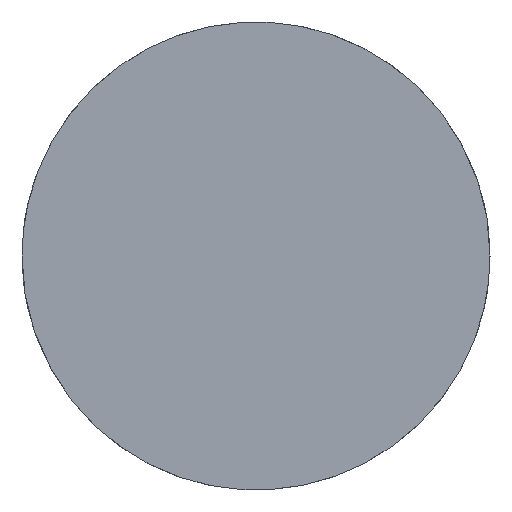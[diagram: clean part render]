
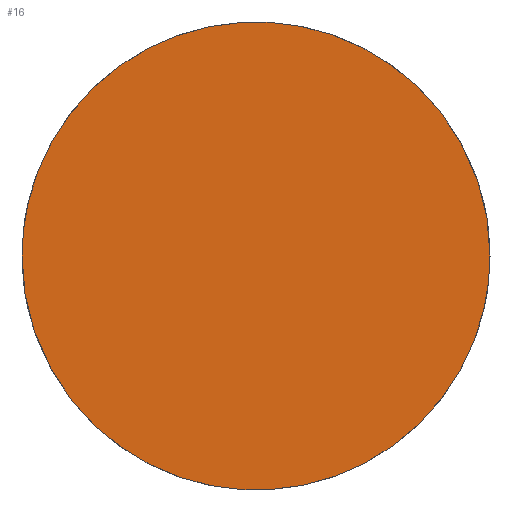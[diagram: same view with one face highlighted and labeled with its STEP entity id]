
A CAD part, left-side view. The second image highlights one B-rep face of the part: STEP entity #16.
In plain terms, the highlighted planar face has unit normal (-1, 0, 0).
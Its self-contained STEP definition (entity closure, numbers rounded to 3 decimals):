
#16=ADVANCED_FACE('',(#22),#79,.T.);
#22=FACE_OUTER_BOUND('',#28,.T.);
#28=EDGE_LOOP('',(#37,#38));
#37=ORIENTED_EDGE('',*,*,#55,.T.);
#38=ORIENTED_EDGE('',*,*,#60,.T.);
#55=EDGE_CURVE('',#74,#77,#65,.T.);
#60=EDGE_CURVE('',#77,#74,#70,.T.);
#65=(
BOUNDED_CURVE()
B_SPLINE_CURVE(2,(#170,#171,#172,#173,#174),.UNSPECIFIED.,.F.,.F.)
B_SPLINE_CURVE_WITH_KNOTS((3,2,3),(-25.133,-18.85,
-12.566),.UNSPECIFIED.)
CURVE()
GEOMETRIC_REPRESENTATION_ITEM()
RATIONAL_B_SPLINE_CURVE((1.,0.707,1.,0.707,1.))
REPRESENTATION_ITEM('')
);
#70=(
BOUNDED_CURVE()
B_SPLINE_CURVE(2,(#189,#190,#191,#192,#193),.UNSPECIFIED.,.F.,.F.)
B_SPLINE_CURVE_WITH_KNOTS((3,2,3),(-12.566,-6.283,
0.),.UNSPECIFIED.)
CURVE()
GEOMETRIC_REPRESENTATION_ITEM()
RATIONAL_B_SPLINE_CURVE((1.,0.707,1.,0.707,1.))
REPRESENTATION_ITEM('')
);
#74=VERTEX_POINT('',#158);
#77=VERTEX_POINT('',#161);
#79=PLANE('',#105);
#105=AXIS2_PLACEMENT_3D('',#125,#110,$);
#110=DIRECTION('',(-1.,0.,0.));
#125=CARTESIAN_POINT('',(-175.,144.875,463.272));
#158=CARTESIAN_POINT('',(-175.,143.875,468.272));
#161=CARTESIAN_POINT('',(-175.,135.875,468.272));
#170=CARTESIAN_POINT('',(-175.,143.875,468.272));
#171=CARTESIAN_POINT('',(-175.,143.875,464.272));
#172=CARTESIAN_POINT('',(-175.,139.875,464.272));
#173=CARTESIAN_POINT('',(-175.,135.875,464.272));
#174=CARTESIAN_POINT('',(-175.,135.875,468.272));
#189=CARTESIAN_POINT('',(-175.,135.875,468.272));
#190=CARTESIAN_POINT('',(-175.,135.875,472.272));
#191=CARTESIAN_POINT('',(-175.,139.875,472.272));
#192=CARTESIAN_POINT('',(-175.,143.875,472.272));
#193=CARTESIAN_POINT('',(-175.,143.875,468.272));
